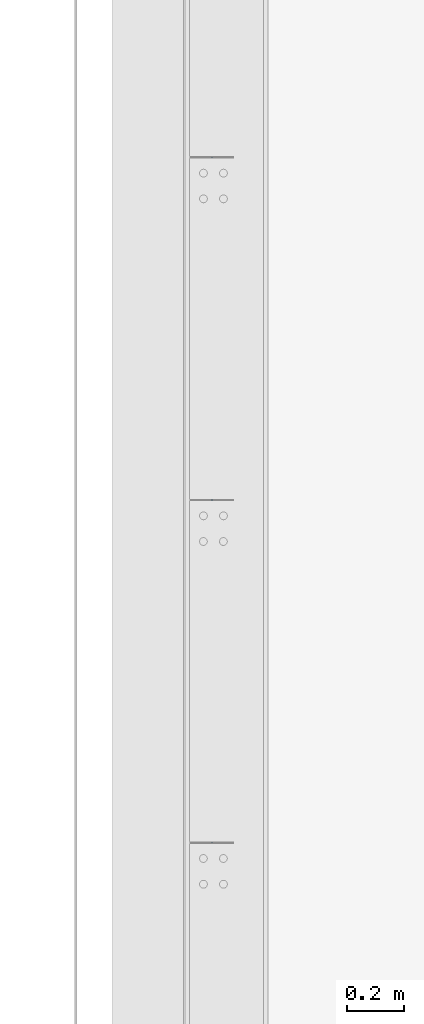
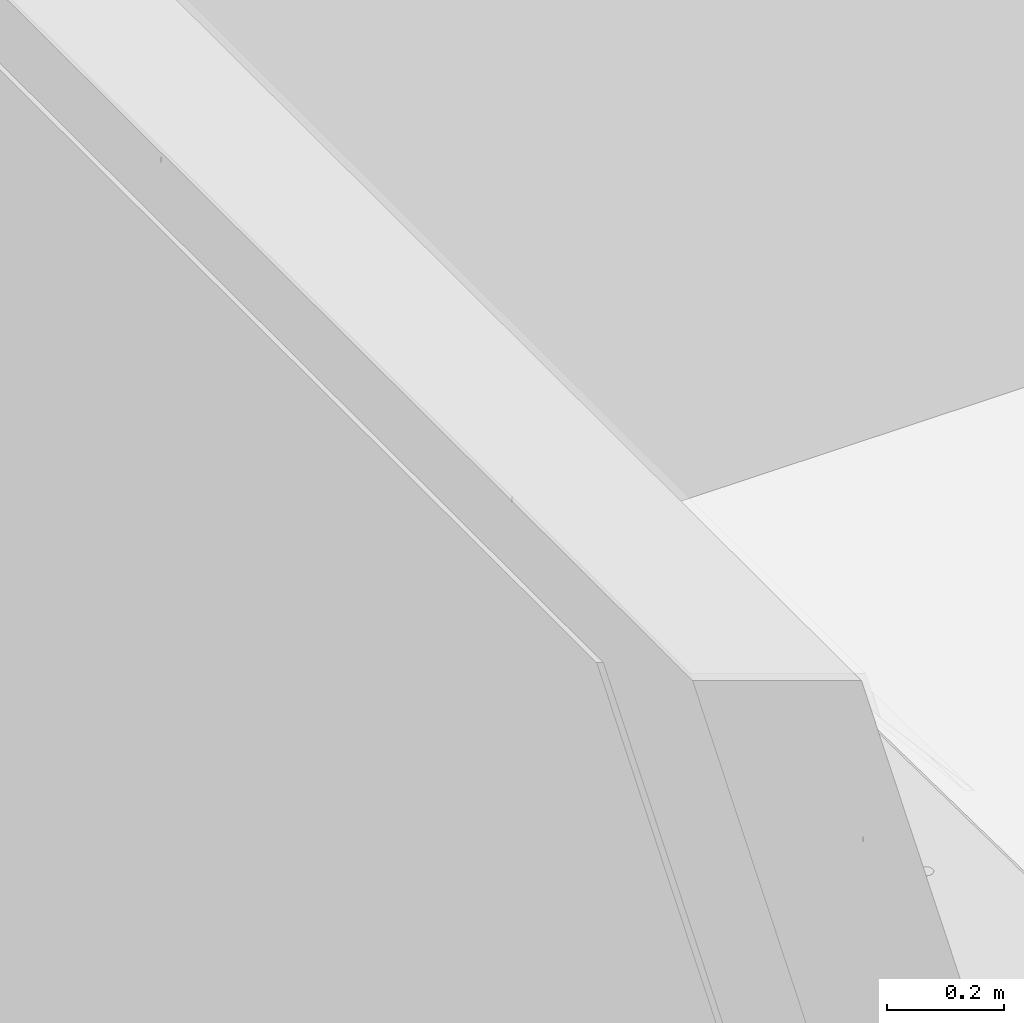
# One storey, part 62 of 186: 3 beams.
"""IFC4X3_ADD2 building model written with IfcOpenShell, lengths in millimetres."""

from ifc_helpers import new_model, si_unit, direction, frame, frame_2d, origin_with_axes, place, context, subcontext, project, spatial, rectangle, extrude, material, element, save


model = new_model("IFC4X3_ADD2")

# Units and contexts
model_context = context("Model", 3, precision=1e-05, world=origin_with_axes(), true_north=direction((0.0, 1.0)))
body_context = subcontext(model_context, "Body", "Model", "MODEL_VIEW")
ifc_project = project(units=[si_unit("LENGTHUNIT", "METRE", prefix="MILLI"), si_unit("AREAUNIT", "SQUARE_METRE"), si_unit("VOLUMEUNIT", "CUBIC_METRE"), si_unit("PLANEANGLEUNIT", "RADIAN"), si_unit("TIMEUNIT", "SECOND"), si_unit("MASSUNIT", "GRAM")], contexts=[model_context])

# Site, building, storey
site_placement = place(None, origin_with_axes())
site = spatial("IfcSite", under=ifc_project, at=site_placement, Name="Site", CompositionType="ELEMENT")
building_placement = place(site_placement, origin_with_axes())
building = spatial("IfcBuilding", under=site, at=building_placement, Name="IFC Building Story")
storey_placement = place(building_placement, frame((0.0, 0.0, 4370.0), z_axis=(0.0, 0.0, 1.0), x_axis=(1.0, 0.0, 0.0)))
storey = spatial("IfcBuildingStorey", under=building, at=storey_placement, Name="ETAGE 10 (1)", Elevation=4370.0)

# Beams
ifc_material = material(Name="STEEL/Accessory_invisible")
for number, where, z_axis, x_axis, name in (
    (1, (33301.183164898, -12468.043905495, 3338.720211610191), (-1.0, 0.0, 0.0), (0.0, 0.01500926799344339, 0.9998873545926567), "ZW1"),
    (2, (33301.183164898, -11268.0450499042, 3320.06921161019), (-1.0, 0.0, 0.0), (0.0, 0.01500926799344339, 0.9998873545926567), "ZW1"),
    (3, (33301.183164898, -10068.0442869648, 3301.416211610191), (-1.0, 0.0, 0.0), (0.0, 0.01500926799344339, 0.9998873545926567), "ZW1"),
):
    element("IfcBeam", number, at=place(storey_placement, frame(where, z_axis=z_axis, x_axis=x_axis)), inside=storey, material=ifc_material, Name=name, ObjectType="1*1 12", context=body_context, shape_type="SweptSolid", body=[
        extrude(rectangle(XDim=10.0, YDim=1.00000000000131, at=frame_2d((0.0, 5.95523630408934e-12), x_axis=(1.0, 0.0))), origin_with_axes(), (0.0, 0.0, 1.0), 1.0),
    ])

save(model, "model.ifc")
